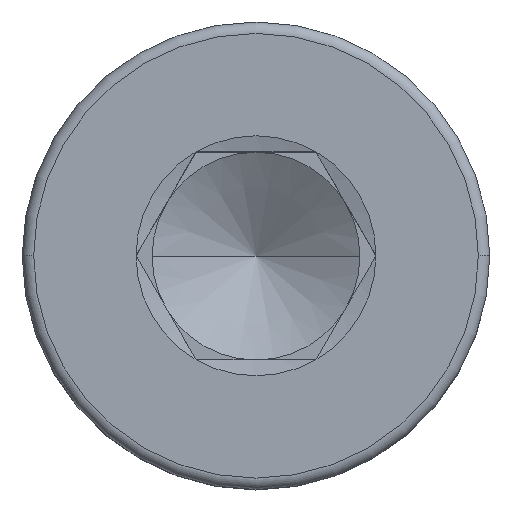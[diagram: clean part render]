
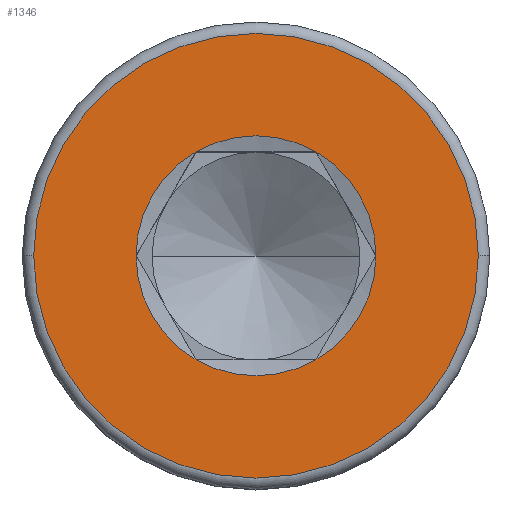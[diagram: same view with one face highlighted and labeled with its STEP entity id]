
A CAD part, top view. The second image highlights one B-rep face of the part: STEP entity #1346.
In plain terms, the highlighted planar face has unit normal (0, 0, 1).
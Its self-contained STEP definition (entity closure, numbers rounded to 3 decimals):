
#4 = DIRECTION ( 'NONE',  ( 1., 0., 0. ) ) ;
#15 = ORIENTED_EDGE ( 'NONE', *, *, #1548, .T. ) ;
#27 = AXIS2_PLACEMENT_3D ( 'NONE', #658, #1112, #4 ) ;
#37 = CARTESIAN_POINT ( 'NONE',  ( 0., 0., 2.5 ) ) ;
#82 = EDGE_LOOP ( 'NONE', ( #374, #15 ) ) ;
#100 = AXIS2_PLACEMENT_3D ( 'NONE', #568, #581, #1055 ) ;
#108 = VERTEX_POINT ( 'NONE', #686 ) ;
#109 = EDGE_CURVE ( 'NONE', #751, #1025, #1283, .T. ) ;
#190 = CARTESIAN_POINT ( 'NONE',  ( 0., 0., 2.5 ) ) ;
#218 = EDGE_LOOP ( 'NONE', ( #994, #519, #1005, #483, #348, #884 ) ) ;
#259 = DIRECTION ( 'NONE',  ( 0., 0., 1. ) ) ;
#273 = FACE_BOUND ( 'NONE', #218, .T. ) ;
#280 = EDGE_CURVE ( 'NONE', #488, #1191, #899, .T. ) ;
#316 = DIRECTION ( 'NONE',  ( 0., 0., 1. ) ) ;
#336 = CARTESIAN_POINT ( 'NONE',  ( -0.577, 1., 2.5 ) ) ;
#348 = ORIENTED_EDGE ( 'NONE', *, *, #109, .F. ) ;
#374 = ORIENTED_EDGE ( 'NONE', *, *, #280, .T. ) ;
#416 = CARTESIAN_POINT ( 'NONE',  ( 0., 0., 2.5 ) ) ;
#432 = CARTESIAN_POINT ( 'NONE',  ( 0.577, 1., 2.5 ) ) ;
#440 = CIRCLE ( 'NONE', #1282, 1.155 ) ;
#457 = CARTESIAN_POINT ( 'NONE',  ( 0., 0., 2.5 ) ) ;
#483 = ORIENTED_EDGE ( 'NONE', *, *, #1190, .F. ) ;
#488 = VERTEX_POINT ( 'NONE', #1367 ) ;
#493 = AXIS2_PLACEMENT_3D ( 'NONE', #1251, #259, #767 ) ;
#519 = ORIENTED_EDGE ( 'NONE', *, *, #869, .F. ) ;
#523 = CIRCLE ( 'NONE', #1132, 2.14 ) ;
#540 = DIRECTION ( 'NONE',  ( 1., 0., 0. ) ) ;
#568 = CARTESIAN_POINT ( 'NONE',  ( 0., 0., 2.5 ) ) ;
#581 = DIRECTION ( 'NONE',  ( 0., 0., 1. ) ) ;
#620 = AXIS2_PLACEMENT_3D ( 'NONE', #696, #316, #810 ) ;
#658 = CARTESIAN_POINT ( 'NONE',  ( 0., 0., 2.5 ) ) ;
#677 = CIRCLE ( 'NONE', #27, 1.155 ) ;
#686 = CARTESIAN_POINT ( 'NONE',  ( 0.577, -1., 2.5 ) ) ;
#689 = VERTEX_POINT ( 'NONE', #1039 ) ;
#696 = CARTESIAN_POINT ( 'NONE',  ( 0., 0., 2.5 ) ) ;
#751 = VERTEX_POINT ( 'NONE', #336 ) ;
#767 = DIRECTION ( 'NONE',  ( 1., 0., 0. ) ) ;
#798 = AXIS2_PLACEMENT_3D ( 'NONE', #37, #1225, #540 ) ;
#810 = DIRECTION ( 'NONE',  ( 1., 0., 0. ) ) ;
#841 = DIRECTION ( 'NONE',  ( 0., 0., 1. ) ) ;
#848 = CARTESIAN_POINT ( 'NONE',  ( 0., 0., 2.5 ) ) ;
#855 = CIRCLE ( 'NONE', #798, 1.155 ) ;
#869 = EDGE_CURVE ( 'NONE', #108, #1324, #677, .T. ) ;
#884 = ORIENTED_EDGE ( 'NONE', *, *, #966, .F. ) ;
#899 = CIRCLE ( 'NONE', #979, 2.14 ) ;
#907 = DIRECTION ( 'NONE',  ( 1., 0., 0. ) ) ;
#960 = DIRECTION ( 'NONE',  ( 0., 0., 1. ) ) ;
#966 = EDGE_CURVE ( 'NONE', #1583, #751, #855, .T. ) ;
#977 = CARTESIAN_POINT ( 'NONE',  ( 1.155, 0., 2.5 ) ) ;
#979 = AXIS2_PLACEMENT_3D ( 'NONE', #457, #841, #1203 ) ;
#992 = FACE_OUTER_BOUND ( 'NONE', #82, .T. ) ;
#994 = ORIENTED_EDGE ( 'NONE', *, *, #1043, .F. ) ;
#1005 = ORIENTED_EDGE ( 'NONE', *, *, #1020, .F. ) ;
#1018 = PLANE ( 'NONE',  #493 ) ;
#1020 = EDGE_CURVE ( 'NONE', #689, #108, #440, .T. ) ;
#1025 = VERTEX_POINT ( 'NONE', #1524 ) ;
#1039 = CARTESIAN_POINT ( 'NONE',  ( -0.577, -1., 2.5 ) ) ;
#1042 = DIRECTION ( 'NONE',  ( 0., 0., 1. ) ) ;
#1043 = EDGE_CURVE ( 'NONE', #1324, #1583, #1131, .T. ) ;
#1055 = DIRECTION ( 'NONE',  ( 1., 0., 0. ) ) ;
#1094 = DIRECTION ( 'NONE',  ( 1., 0., 0. ) ) ;
#1112 = DIRECTION ( 'NONE',  ( 0., 0., 1. ) ) ;
#1131 = CIRCLE ( 'NONE', #620, 1.155 ) ;
#1132 = AXIS2_PLACEMENT_3D ( 'NONE', #416, #1527, #907 ) ;
#1190 = EDGE_CURVE ( 'NONE', #1025, #689, #1355, .T. ) ;
#1191 = VERTEX_POINT ( 'NONE', #1202 ) ;
#1202 = CARTESIAN_POINT ( 'NONE',  ( -2.14, 0., 2.5 ) ) ;
#1203 = DIRECTION ( 'NONE',  ( 1., 0., 0. ) ) ;
#1225 = DIRECTION ( 'NONE',  ( 0., 0., 1. ) ) ;
#1227 = AXIS2_PLACEMENT_3D ( 'NONE', #848, #960, #1094 ) ;
#1251 = CARTESIAN_POINT ( 'NONE',  ( 0., 0., 2.5 ) ) ;
#1282 = AXIS2_PLACEMENT_3D ( 'NONE', #190, #1042, #1302 ) ;
#1283 = CIRCLE ( 'NONE', #100, 1.155 ) ;
#1302 = DIRECTION ( 'NONE',  ( 1., 0., 0. ) ) ;
#1324 = VERTEX_POINT ( 'NONE', #977 ) ;
#1346 = ADVANCED_FACE ( 'NONE', ( #992, #273 ), #1018, .T. ) ;
#1355 = CIRCLE ( 'NONE', #1227, 1.155 ) ;
#1367 = CARTESIAN_POINT ( 'NONE',  ( 2.14, 0., 2.5 ) ) ;
#1524 = CARTESIAN_POINT ( 'NONE',  ( -1.155, 0., 2.5 ) ) ;
#1527 = DIRECTION ( 'NONE',  ( 0., 0., 1. ) ) ;
#1548 = EDGE_CURVE ( 'NONE', #1191, #488, #523, .T. ) ;
#1583 = VERTEX_POINT ( 'NONE', #432 ) ;
